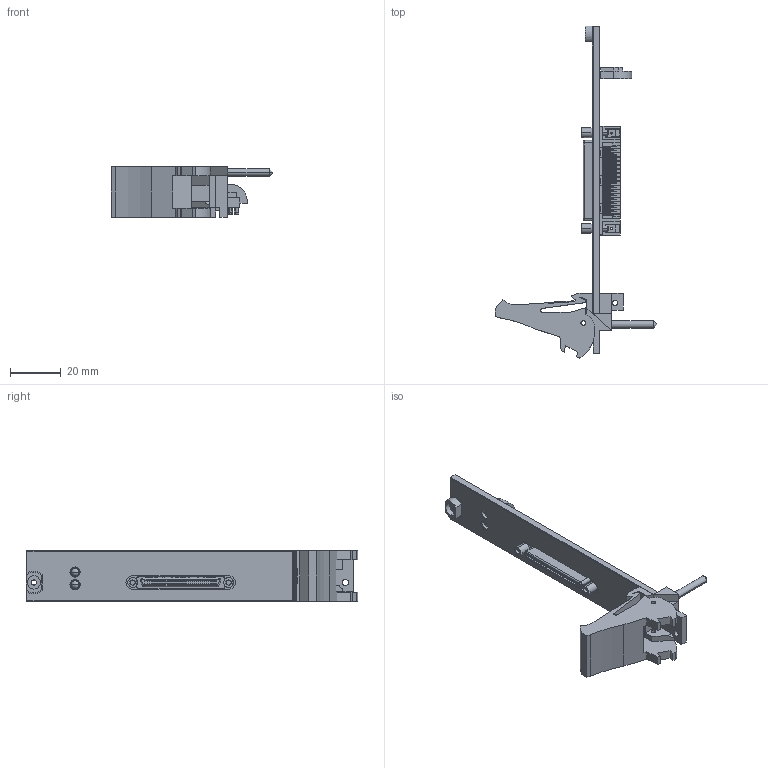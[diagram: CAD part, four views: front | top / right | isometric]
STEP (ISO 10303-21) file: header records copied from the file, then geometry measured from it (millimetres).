
FILE_DESCRIPTION((''),'2;1');
FILE_NAME('CU_PXIE-6537','2007-08-03T',('lmcdanie'),(''),'PRO/ENGINEER BY PARAMETRIC TECHNOLOGY CORPORATION, 2006080','PRO/ENGINEER BY PARAMETRIC TECHNOLOGY CORPORATION, 2006080','');
FILE_SCHEMA(('CONFIG_CONTROL_DESIGN'));
Length unit declared in the file: inch
Products named in the file (1): CU_PXIE-6537
Bounding box: 63.53 x 130.5 x 20.02 mm (x, y, z)
Volume: 15714.7 mm3; surface area: 14681.7 mm2
Topology: 2 solids, 2 shells, 1888 faces, 5154 edges, 3394 vertices
Faces by surface type: plane 1521, cylinder 345, cone 14, bspline 4, sphere 4
Entity records: 59591 total; most frequent: CARTESIAN_POINT 10684, ORIENTED_EDGE 10300, DIRECTION 9640, EDGE_CURVE 5150, VECTOR 4398, LINE 4398, VERTEX_POINT 3394, AXIS2_PLACEMENT_3D 2621
